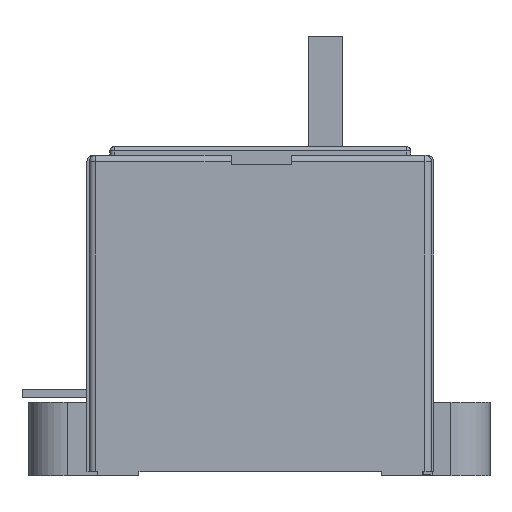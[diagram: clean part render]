
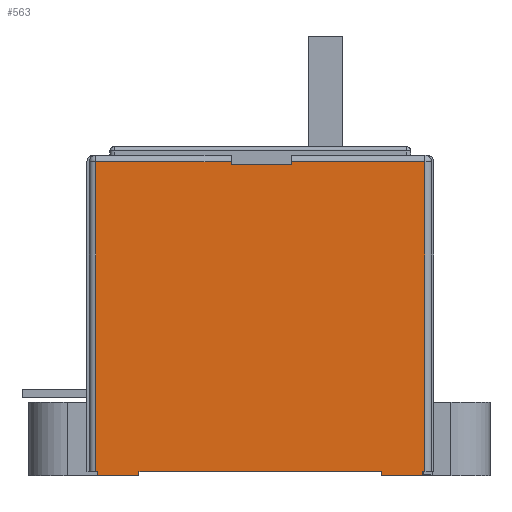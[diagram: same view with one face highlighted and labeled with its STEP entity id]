
A CAD part, left-side view. The second image highlights one B-rep face of the part: STEP entity #563.
In plain terms, the highlighted planar face has unit normal (-1, 0, 0).
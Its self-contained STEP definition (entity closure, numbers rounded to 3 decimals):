
#563=ADVANCED_FACE('',(#1136),#917,.F.);
#917=PLANE('',#6680);
#1136=FACE_OUTER_BOUND('',#1474,.T.);
#1474=EDGE_LOOP('',(#2265,#2266,#2267,#2268,#2269,#2270,#2271,#2272,#2273,
#2274,#2275,#2276,#2277,#2278,#2279,#2280));
#2265=ORIENTED_EDGE('',*,*,#4609,.F.);
#2266=ORIENTED_EDGE('',*,*,#4610,.T.);
#2267=ORIENTED_EDGE('',*,*,#4611,.T.);
#2268=ORIENTED_EDGE('',*,*,#4612,.F.);
#2269=ORIENTED_EDGE('',*,*,#4613,.T.);
#2270=ORIENTED_EDGE('',*,*,#4614,.T.);
#2271=ORIENTED_EDGE('',*,*,#4607,.T.);
#2272=ORIENTED_EDGE('',*,*,#4459,.T.);
#2273=ORIENTED_EDGE('',*,*,#4604,.F.);
#2274=ORIENTED_EDGE('',*,*,#4615,.F.);
#2275=ORIENTED_EDGE('',*,*,#4616,.T.);
#2276=ORIENTED_EDGE('',*,*,#4294,.T.);
#2277=ORIENTED_EDGE('',*,*,#4617,.F.);
#2278=ORIENTED_EDGE('',*,*,#4618,.F.);
#2279=ORIENTED_EDGE('',*,*,#4619,.T.);
#2280=ORIENTED_EDGE('',*,*,#4475,.T.);
#3710=VERTEX_POINT('',#9166);
#3711=VERTEX_POINT('',#9168);
#3867=VERTEX_POINT('',#9511);
#3868=VERTEX_POINT('',#9513);
#3879=VERTEX_POINT('',#9539);
#3882=VERTEX_POINT('',#9545);
#3962=VERTEX_POINT('',#9792);
#3964=VERTEX_POINT('',#9800);
#3965=VERTEX_POINT('',#9804);
#3966=VERTEX_POINT('',#9806);
#3967=VERTEX_POINT('',#9808);
#3968=VERTEX_POINT('',#9810);
#3969=VERTEX_POINT('',#9812);
#3970=VERTEX_POINT('',#9815);
#3971=VERTEX_POINT('',#9818);
#3972=VERTEX_POINT('',#9820);
#4294=EDGE_CURVE('',#3711,#3710,#5223,.T.);
#4459=EDGE_CURVE('',#3868,#3867,#5355,.T.);
#4475=EDGE_CURVE('',#3879,#3882,#5367,.T.);
#4604=EDGE_CURVE('',#3962,#3867,#5481,.T.);
#4607=EDGE_CURVE('',#3964,#3868,#5484,.T.);
#4609=EDGE_CURVE('',#3965,#3882,#5485,.T.);
#4610=EDGE_CURVE('',#3965,#3966,#5486,.T.);
#4611=EDGE_CURVE('',#3966,#3967,#5487,.T.);
#4612=EDGE_CURVE('',#3968,#3967,#5488,.T.);
#4613=EDGE_CURVE('',#3968,#3969,#5489,.T.);
#4614=EDGE_CURVE('',#3969,#3964,#5490,.T.);
#4615=EDGE_CURVE('',#3970,#3962,#5491,.T.);
#4616=EDGE_CURVE('',#3970,#3711,#5492,.T.);
#4617=EDGE_CURVE('',#3971,#3710,#5493,.T.);
#4618=EDGE_CURVE('',#3972,#3971,#5494,.T.);
#4619=EDGE_CURVE('',#3972,#3879,#5495,.T.);
#5223=LINE('',#9167,#5916);
#5355=LINE('',#9512,#6048);
#5367=LINE('',#9546,#6060);
#5481=LINE('',#9793,#6174);
#5484=LINE('',#9799,#6177);
#5485=LINE('',#9803,#6178);
#5486=LINE('',#9805,#6179);
#5487=LINE('',#9807,#6180);
#5488=LINE('',#9809,#6181);
#5489=LINE('',#9811,#6182);
#5490=LINE('',#9813,#6183);
#5491=LINE('',#9814,#6184);
#5492=LINE('',#9816,#6185);
#5493=LINE('',#9817,#6186);
#5494=LINE('',#9819,#6187);
#5495=LINE('',#9821,#6188);
#5916=VECTOR('',#7227,1.);
#6048=VECTOR('',#7471,1.);
#6060=VECTOR('',#7497,1.);
#6174=VECTOR('',#7717,1.);
#6177=VECTOR('',#7724,1.);
#6178=VECTOR('',#7729,1.);
#6179=VECTOR('',#7730,1.);
#6180=VECTOR('',#7731,1.);
#6181=VECTOR('',#7732,1.);
#6182=VECTOR('',#7733,1.);
#6183=VECTOR('',#7734,1.);
#6184=VECTOR('',#7735,1.);
#6185=VECTOR('',#7736,1.);
#6186=VECTOR('',#7737,1.);
#6187=VECTOR('',#7738,1.);
#6188=VECTOR('',#7739,1.);
#6680=AXIS2_PLACEMENT_3D('',#9822,#7740,#7741);
#7227=DIRECTION('',(0.,-1.,0.));
#7471=DIRECTION('',(0.,-1.,0.));
#7497=DIRECTION('',(0.,-1.,0.));
#7717=DIRECTION('',(0.,0.,1.));
#7724=DIRECTION('',(0.,0.,-1.));
#7729=DIRECTION('',(0.,0.,-1.));
#7730=DIRECTION('',(0.,1.,0.));
#7731=DIRECTION('',(0.,0.,-1.));
#7732=DIRECTION('',(0.,-1.,0.));
#7733=DIRECTION('',(0.,0.,1.));
#7734=DIRECTION('',(0.,1.,0.));
#7735=DIRECTION('',(0.,1.,0.));
#7736=DIRECTION('',(0.,0.,1.));
#7737=DIRECTION('',(0.,0.,1.));
#7738=DIRECTION('',(0.,1.,0.));
#7739=DIRECTION('',(0.,0.,1.));
#7740=DIRECTION('',(1.,0.,0.));
#7741=DIRECTION('',(0.,0.,-1.));
#9166=CARTESIAN_POINT('',(-66.,-28.,1.));
#9167=CARTESIAN_POINT('',(-66.,-37.5,1.));
#9168=CARTESIAN_POINT('',(-66.,28.,1.));
#9511=CARTESIAN_POINT('',(-66.,37.5,1.));
#9512=CARTESIAN_POINT('',(-66.,-37.5,1.));
#9513=CARTESIAN_POINT('',(-66.,38.,1.));
#9539=CARTESIAN_POINT('',(-66.,-37.5,1.));
#9545=CARTESIAN_POINT('',(-66.,-38.,1.));
#9546=CARTESIAN_POINT('',(-66.,-37.5,1.));
#9792=CARTESIAN_POINT('',(-66.,37.5,0.));
#9793=CARTESIAN_POINT('',(-66.,37.5,-1.));
#9799=CARTESIAN_POINT('',(-66.,38.,74.));
#9800=CARTESIAN_POINT('',(-66.,38.,72.5));
#9803=CARTESIAN_POINT('',(-66.,-38.,74.));
#9804=CARTESIAN_POINT('',(-66.,-38.,72.5));
#9805=CARTESIAN_POINT('',(-66.,38.,72.5));
#9806=CARTESIAN_POINT('',(-66.,-7.25,72.5));
#9807=CARTESIAN_POINT('',(-66.,-7.25,74.));
#9808=CARTESIAN_POINT('',(-66.,-7.25,71.9));
#9809=CARTESIAN_POINT('',(-66.,37.5,71.9));
#9810=CARTESIAN_POINT('',(-66.,6.75,71.9));
#9811=CARTESIAN_POINT('',(-66.,6.75,74.));
#9812=CARTESIAN_POINT('',(-66.,6.75,72.5));
#9813=CARTESIAN_POINT('',(-66.,38.,72.5));
#9814=CARTESIAN_POINT('',(-66.,28.,0.));
#9815=CARTESIAN_POINT('',(-66.,28.,0.));
#9816=CARTESIAN_POINT('',(-66.,28.,-1.));
#9817=CARTESIAN_POINT('',(-66.,-28.,-1.));
#9818=CARTESIAN_POINT('',(-66.,-28.,0.));
#9819=CARTESIAN_POINT('',(-66.,-37.5,0.));
#9820=CARTESIAN_POINT('',(-66.,-37.5,0.));
#9821=CARTESIAN_POINT('',(-66.,-37.5,-1.));
#9822=CARTESIAN_POINT('',(-66.,-37.5,74.));
